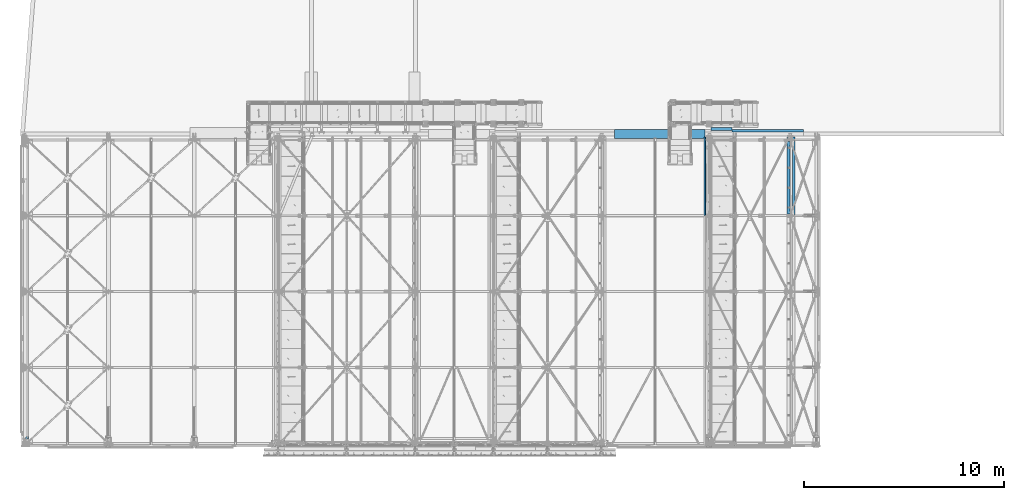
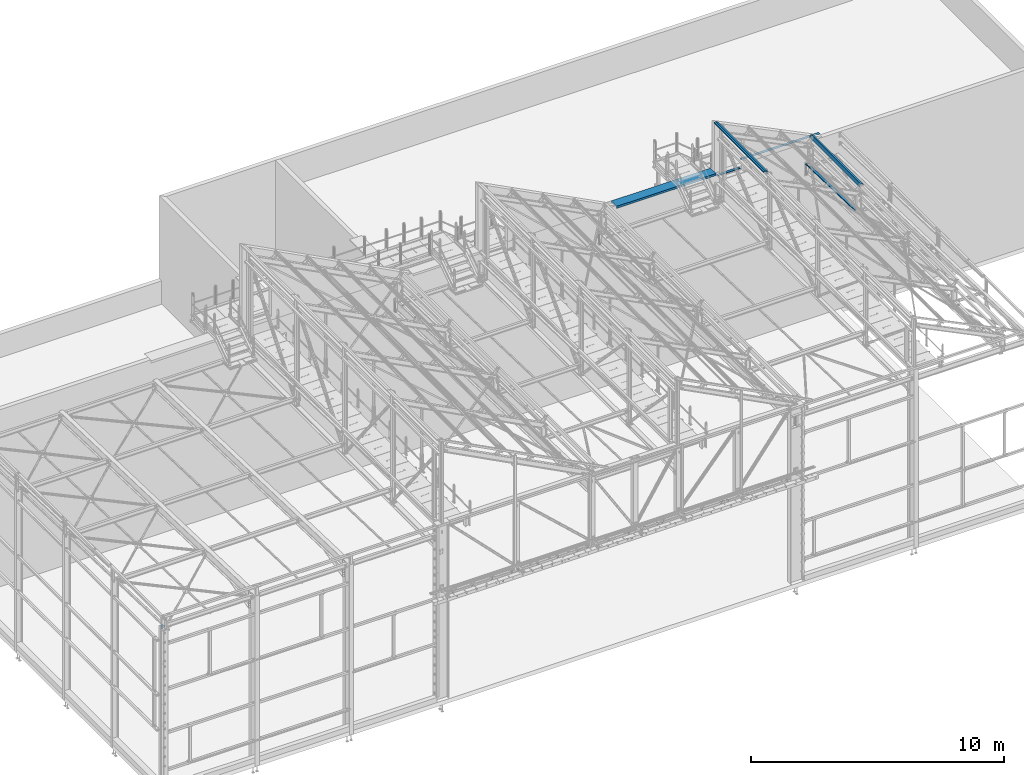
# One storey, part 351 of 362: 7 beams, 7 elements without a shape of their own.
"""IFC2X3 building model written with IfcOpenShell, lengths in millimetres."""

from ifc_helpers import new_model, si_unit, frame, origin_with_axes, place, context, subcontext, project, spatial, faceted_brep, material, type_object, element, aggregate, save


model = new_model("IFC2X3")

# Units and contexts
model_context = context("Model", 3, precision=1e-05, world=origin_with_axes())
body_context = subcontext(model_context, "Body", "Model", "MODEL_VIEW")
ifc_project = project(units=[si_unit("LENGTHUNIT", "METRE", prefix="MILLI"), si_unit("AREAUNIT", "SQUARE_METRE"), si_unit("VOLUMEUNIT", "CUBIC_METRE"), si_unit("MASSUNIT", "GRAM", prefix="KILO"), si_unit("TIMEUNIT", "SECOND"), si_unit("PLANEANGLEUNIT", "RADIAN"), si_unit("SOLIDANGLEUNIT", "STERADIAN"), si_unit("THERMODYNAMICTEMPERATUREUNIT", "DEGREE_CELSIUS"), si_unit("LUMINOUSINTENSITYUNIT", "LUMEN")], contexts=[model_context])

# Site, building, storey
site_placement = place(None, origin_with_axes())
site = spatial("IfcSite", under=ifc_project, at=site_placement, Name="Undefined", CompositionType="ELEMENT")
building_placement = place(site_placement, origin_with_axes())
building = spatial("IfcBuilding", under=site, at=building_placement, Name="Undefined", CompositionType="ELEMENT")
storey_placement = place(building_placement, origin_with_axes())
storey = spatial("IfcBuildingStorey", under=building, at=storey_placement, Name="Undefined", CompositionType="ELEMENT", Elevation=0.0)

# Assembly, beam
assembly_1_placement = place(storey_placement, origin_with_axes())
assembly_1 = element("IfcElementAssembly", 1, at=assembly_1_placement, inside=storey, AssemblyPlace="NOTDEFINED", PredefinedType="NOTDEFINED")
ifc_material = material(Name="Undefined/S235-E24")
beam_type_1 = type_object("IfcBeamType", Name="PL1*3585", PredefinedType="NOTDEFINED")
beam_1_placement = place(assembly_1_placement, frame((37204.0000000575, 15725.5518131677, 8490.00255378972), z_axis=(-1.0, 0.0, 0.0), x_axis=(0.0, -0.104503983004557, 0.994524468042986)))
beam_1 = element("IfcBeam", 2, at=beam_1_placement, type_object=beam_type_1, material=ifc_material, Name="COIFFE", ObjectType="PL1*3585", context=body_context, shape_type="Brep", body=[
    faceted_brep([(1.21872290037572e-10, -0.5, -1792.5), (1.21872290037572e-10, -0.5, 1792.5), (-1.24600774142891e-10, 0.5, 1792.5), (-1.24600774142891e-10, 0.5, -1792.5), (9.99994928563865, 0.500000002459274, 1792.5), (9.99994928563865, 0.500000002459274, -1792.5), (10.0523447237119, -0.499999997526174, -1792.5), (10.0523447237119, -0.499999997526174, 1792.5), (99.5071476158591, 9.90535807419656, 1792.5), (99.5071476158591, 9.90535807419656, -1792.5), (98.6389784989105, 8.80862575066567, -1792.5), (98.6389784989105, 8.80862575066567, 1792.5), (116.598834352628, -124.046522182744, 1792.5), (116.598834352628, -124.046522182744, -1792.5), (115.606876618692, -124.173091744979, 1792.5), (115.606876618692, -124.173091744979, -1792.5)], [[[0, 1, 2, 3]], [[3, 2, 4, 5]], [[1, 0, 6, 7]], [[5, 4, 8, 9]], [[7, 6, 10, 11]], [[9, 8, 12, 13]], [[8, 4, 2, 1, 7, 11, 14, 12]], [[11, 10, 15, 14]], [[10, 6, 0, 3, 5, 9, 13, 15]], [[14, 15, 13, 12]]]),
])
aggregate(assembly_1, [beam_1])

assembly_2_placement = place(storey_placement, origin_with_axes())
assembly_2 = element("IfcElementAssembly", 3, at=assembly_2_placement, inside=storey, AssemblyPlace="NOTDEFINED", PredefinedType="NOTDEFINED")
beam_type_2 = type_object("IfcBeamType", Name="PL1*4540", PredefinedType="NOTDEFINED")
beam_2_placement = place(assembly_2_placement, frame((31793.4300035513, 15725.551813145, 8490.0025537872), z_axis=(-1.0, 0.0, 0.0), x_axis=(0.0, -0.104503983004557, 0.994524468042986)))
beam_2 = element("IfcBeam", 4, at=beam_2_placement, type_object=beam_type_2, material=ifc_material, Name="COIFFE", ObjectType="PL1*4540", context=body_context, shape_type="Brep", body=[
    faceted_brep([(2.60934029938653e-09, -0.5, -2270.0), (2.60934029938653e-09, -0.5, 2270.0), (-2.6102497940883e-09, 0.5, 2270.0), (-2.6102497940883e-09, 0.5, -2270.0), (9.99994928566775, 0.500000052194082, 2270.0), (9.99994928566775, 0.500000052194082, -2270.0), (10.0523286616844, -0.49999994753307, -2270.0), (10.0523286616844, -0.49999994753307, 2270.0), (99.5074489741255, 9.90249021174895, 2270.0), (99.5074489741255, 9.90249021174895, -2270.0), (98.6392763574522, 8.80578902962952, -2270.0), (98.6392763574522, 8.80578902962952, 2270.0), (156.478023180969, -436.588628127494, 2270.0), (156.478023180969, -436.588628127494, -2270.0), (155.356650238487, -435.700941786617, -2270.0), (155.356650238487, -435.700941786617, 2270.0), (57.0288088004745, -447.037337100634, 2270.0), (57.0288088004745, -447.037337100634, -2270.0), (59.3252667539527, -445.790553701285, -2270.0), (59.3252667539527, -445.790553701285, 2270.0), (66.4689025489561, -435.380353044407, 2270.0), (66.4689025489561, -435.380353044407, -2270.0), (67.2460337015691, -436.009691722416, 2270.0), (67.2460337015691, -436.009691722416, -2270.0)], [[[0, 1, 2, 3]], [[3, 2, 4, 5]], [[1, 0, 6, 7]], [[5, 4, 8, 9]], [[7, 6, 10, 11]], [[9, 8, 12, 13]], [[11, 10, 14, 15]], [[13, 12, 16, 17]], [[15, 14, 18, 19]], [[17, 16, 20, 21]], [[16, 12, 8, 4, 2, 1, 7, 11, 15, 19, 22, 20]], [[19, 18, 23, 22]], [[18, 14, 10, 6, 0, 3, 5, 9, 13, 17, 21, 23]], [[22, 23, 21, 20]]]),
])
aggregate(assembly_2, [beam_2])

assembly_3_placement = place(storey_placement, origin_with_axes())
assembly_3 = element("IfcElementAssembly", 5, at=assembly_3_placement, inside=storey, AssemblyPlace="NOTDEFINED", PredefinedType="NOTDEFINED")
beam_type_3 = type_object("IfcBeamType", Name="PL1*1065", PredefinedType="NOTDEFINED")
beam_3_placement = place(assembly_3_placement, frame((34879.0000000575, 15804.7465046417, 8079.96015603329), z_axis=(-1.0, 0.0, 0.0), x_axis=(0.0, 0.707106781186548, -0.707106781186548)))
beam_3 = element("IfcBeam", 6, at=beam_3_placement, type_object=beam_type_3, material=ifc_material, Name="COIFFE", ObjectType="PL1*1065", context=body_context, shape_type="Brep", body=[
    faceted_brep([(-9.09494701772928e-13, -0.5, -532.5), (-9.09494701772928e-13, -0.5, 532.5), (0.0, 0.5, 532.5), (0.0, 0.5, -532.5), (14.9999999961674, 0.5, 532.5), (14.9999999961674, 0.5, -532.5), (12.5857864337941, -0.5, -532.5), (12.5857864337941, -0.5, 532.5), (-20.3553390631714, -34.855339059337, 532.5), (-20.3553390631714, -34.855339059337, -532.5), (-20.4043516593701, -33.4901380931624, -532.5), (-20.4043516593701, -33.4901380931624, 532.5), (-136.320853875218, 65.5538265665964, 532.5), (-136.320853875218, 65.5538265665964, -532.5), (-136.369866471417, 66.919027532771, -532.5), (-136.369866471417, 66.919027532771, 532.5), (-150.462992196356, 51.4116882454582, 532.5), (-150.462992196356, 51.4116882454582, -532.5), (-151.170098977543, 52.1187950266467, 532.5), (-151.170098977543, 52.1187950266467, -532.5)], [[[0, 1, 2, 3]], [[3, 2, 4, 5]], [[1, 0, 6, 7]], [[5, 4, 8, 9]], [[7, 6, 10, 11]], [[9, 8, 12, 13]], [[11, 10, 14, 15]], [[13, 12, 16, 17]], [[12, 8, 4, 2, 1, 7, 11, 15, 18, 16]], [[15, 14, 19, 18]], [[14, 10, 6, 0, 3, 5, 9, 13, 17, 19]], [[18, 19, 17, 16]]]),
])
aggregate(assembly_3, [beam_3])

assembly_4_placement = place(storey_placement, origin_with_axes())
assembly_4 = element("IfcElementAssembly", 7, at=assembly_4_placement, inside=storey, Name="POUTRE", AssemblyPlace="NOTDEFINED", PredefinedType="NOTDEFINED")
beam_type_4 = type_object("IfcBeamType", Name="PL2*4000", PredefinedType="NOTDEFINED")
beam_4_placement = place(assembly_4_placement, frame((38309.9999999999, 13351.0192249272, 7631.42783689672), z_axis=(3.14103090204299e-11, 0.999506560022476, -0.0314107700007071), x_axis=(-1.0, 0.0, 0.0)))
beam_4 = element("IfcBeam", 8, at=beam_4_placement, type_object=beam_type_4, material=ifc_material, Name="POUTRE", ObjectType="PL2*4000", context=body_context, shape_type="Brep", body=[
    faceted_brep([(2.3283064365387e-10, 1.00000000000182, 1764.61043258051), (2.3283064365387e-10, -0.999999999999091, 1764.6104325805), (84.999999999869, -1.00000000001, 1764.61043258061), (84.999999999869, 0.999999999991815, 1764.61043258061), (85.0000000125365, -1.00000000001, 1934.61043258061), (85.0000000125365, 0.999999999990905, 1934.61043258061), (2.5465851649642e-10, 1.00000000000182, 1934.61043258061), (2.5465851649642e-10, -0.999999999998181, 1934.61043258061), (138.000000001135, 0.99999999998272, 1999.99999999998), (138.000000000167, 39.0000003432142, 1999.99999999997), (137.999999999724, 39.0000003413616, -1947.26557824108), (137.999999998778, 0.999999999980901, -1947.26557824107), (140.000000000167, 39.0000003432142, 1999.99999999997), (140.000000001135, -1.00000000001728, 1999.99999999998), (139.999999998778, -1.00000000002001, -1947.26557824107), (139.999999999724, 39.0000003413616, -1947.26557824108), (-2.47382558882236e-10, 1.0, -1867.26557823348), (84.9999999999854, 0.999999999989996, -1867.26557823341), (84.9999999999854, -1.00000000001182, -1867.26557823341), (-2.47382558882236e-10, -1.00000000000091, -1867.26557823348), (85.0000000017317, 0.999999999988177, -1947.26557824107), (85.0000000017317, -1.00000000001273, -1947.26557824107), (2.61934474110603e-10, 1.00000000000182, 2000.0), (2.61934474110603e-10, -0.999999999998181, 2000.0)], [[[0, 1, 2, 3]], [[3, 2, 4, 5]], [[6, 5, 4, 7]], [[8, 9, 10, 11]], [[12, 13, 14, 15]], [[16, 17, 18, 19]], [[20, 21, 18, 17]], [[11, 10, 15, 14, 21, 20]], [[9, 12, 15, 10]], [[8, 22, 23, 13, 12, 9]], [[23, 22, 6, 7]], [[2, 1, 19, 18, 21, 14, 13, 23, 7, 4]], [[16, 19, 1, 0]], [[22, 8, 11, 20, 17, 16, 0, 3, 5, 6]]]),
])
aggregate(assembly_4, [beam_4])

assembly_5_placement = place(storey_placement, origin_with_axes())
assembly_5 = element("IfcElementAssembly", 9, at=assembly_5_placement, inside=storey, AssemblyPlace="NOTDEFINED", PredefinedType="NOTDEFINED")
beam_type_5 = type_object("IfcBeamType", Name="PL10*140", PredefinedType="NOTDEFINED")
beam_5_placement = place(assembly_5_placement, frame((100.0, 349.778798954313, 7753.86705475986), z_axis=(-1.0, 0.0, 0.0), x_axis=(0.0, -0.999506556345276, 0.031410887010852)))
beam_5 = element("IfcBeam", 10, at=beam_5_placement, type_object=beam_type_5, material=ifc_material, Name="ATTACHE", ObjectType="PL10*140", context=body_context, shape_type="Brep", body=[
    faceted_brep([(129.999999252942, 5.00000017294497, -70.0), (129.999999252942, 5.00000017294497, 70.0), (125.916599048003, -124.935855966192, 70.0), (125.916599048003, -124.935855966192, 9.99999999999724), (128.429460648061, -44.9753311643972, -70.0), (115.921533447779, -124.621748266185, 70.0), (115.921533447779, -124.621748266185, 9.99999999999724), (119.680799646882, -4.99999984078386, 70.0), (119.680799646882, -4.99999984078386, -70.0), (118.434395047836, -44.6612234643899, -70.0), (6.65164634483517e-09, -4.99999999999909, -70.0), (-6.6516747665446e-09, 5.00000000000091, -70.0), (-6.6516747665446e-09, 5.00000000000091, 10.0000000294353), (59.9999999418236, 5.0000000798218, 70.0), (59.9999999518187, -4.99999992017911, 70.0), (6.65164634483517e-09, -4.99999999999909, 10.0000000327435)], [[[0, 1, 2, 3, 4]], [[2, 5, 6, 3]], [[5, 7, 8, 9, 6]], [[3, 6, 9, 4]], [[8, 10, 11, 0, 4, 9]], [[1, 0, 11, 12, 13]], [[7, 5, 2, 1, 13, 14]], [[10, 8, 7, 14, 15]], [[11, 10, 15, 12]], [[14, 13, 12, 15]]]),
])
aggregate(assembly_5, [beam_5])

assembly_6_placement = place(storey_placement, origin_with_axes())
assembly_6 = element("IfcElementAssembly", 11, at=assembly_6_placement, inside=storey, Name="PANNE SHED", AssemblyPlace="NOTDEFINED", PredefinedType="NOTDEFINED")
beam_type_6 = type_object("IfcBeamType", Name="PL3*3950", PredefinedType="NOTDEFINED")
beam_6_placement = place(assembly_6_placement, frame((38418.1250345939, 13380.0003859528, 8769.23312698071), z_axis=(0.0, 1.0, 0.0), x_axis=(-0.897398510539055, -1.29999898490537e-08, 0.441220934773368)))
beam_6 = element("IfcBeam", 12, at=beam_6_placement, type_object=beam_type_6, material=ifc_material, Name="PANNE SHED", ObjectType="PL3*3950", context=body_context, shape_type="Brep", body=[
    faceted_brep([(-4.57112037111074e-09, -1.5, -1975.0), (-2.82489054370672e-09, -1.49999999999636, 1975.0), (4.56748239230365e-09, 1.50000000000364, 1975.0), (2.82125256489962e-09, 1.5, -1975.0), (46.9999982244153, 1.49999988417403, 1974.99999999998), (46.9999982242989, 1.49999988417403, -1975.00000000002), (49.9999982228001, -1.50000012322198, -1975.00000000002), (49.9999982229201, -1.50000012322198, 1974.99999999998), (46.999998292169, 135.499998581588, 1975.00000000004), (46.9999982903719, 135.499998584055, -1974.99999999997), (49.9999982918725, 138.499998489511, -1974.99999999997), (49.9999982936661, 138.499998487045, 1975.00000000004), (-88.132008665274, 135.500006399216, 1975.00000000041), (-88.1320086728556, 135.500006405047, -1974.99999999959), (-90.0000045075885, 138.50000290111, -1974.99999999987), (-90.0000045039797, 138.500002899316, 1975.00000000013), (-122.605485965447, 65.38445941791, 1975.00000000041), (-122.605485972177, 65.3844594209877, -1974.99999999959), (-125.297681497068, 66.7081222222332, 1975.00000000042), (-125.297681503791, 66.7081222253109, -1974.99999999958)], [[[0, 1, 2, 3]], [[3, 2, 4, 5]], [[1, 0, 6, 7]], [[5, 4, 8, 9]], [[7, 6, 10, 11]], [[9, 8, 12, 13]], [[11, 10, 14, 15]], [[13, 12, 16, 17]], [[12, 8, 4, 2, 1, 7, 11, 15, 18, 16]], [[15, 14, 19, 18]], [[14, 10, 6, 0, 3, 5, 9, 13, 17, 19]], [[18, 19, 17, 16]]]),
])
aggregate(assembly_6, [beam_6])

assembly_7_placement = place(storey_placement, origin_with_axes())
assembly_7 = element("IfcElementAssembly", 13, at=assembly_7_placement, inside=storey, Name="PANNE SHED", AssemblyPlace="NOTDEFINED", PredefinedType="NOTDEFINED")
beam_7_placement = place(assembly_7_placement, frame((34004.99999895, 13380.00031983, 11002.6130365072), z_axis=(0.0, 1.0, 0.0), x_axis=(0.0, 0.0, 1.0)))
beam_7 = element("IfcBeam", 14, at=beam_7_placement, type_object=beam_type_6, material=ifc_material, Name="PANNE SHED", ObjectType="PL3*3950", context=body_context, shape_type="Brep", body=[
    faceted_brep([(-4.57112037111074e-09, -1.5, -1975.0), (-2.82489054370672e-09, -1.49999999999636, 1975.0), (4.56748239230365e-09, 1.50000000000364, 1975.0), (2.82125256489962e-09, 1.5, -1975.0), (46.9999982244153, 1.49999988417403, 1974.99999999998), (46.9999982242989, 1.49999988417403, -1975.00000000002), (49.9999982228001, -1.50000012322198, -1975.00000000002), (49.9999982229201, -1.50000012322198, 1974.99999999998), (47.0, 82.166592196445, 1975.0), (47.0, 82.166592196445, -1975.0), (50.0, 82.8642120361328, -1975.0), (50.0, 82.8642120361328, 1975.0), (-13.6389276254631, 205.5, 1975.0), (-13.6389276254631, 205.5, -1975.0), (-11.7709312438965, 208.5, -1975.0), (-11.7709312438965, 208.5, 1975.0), (-148.770935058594, 205.5, 1975.0), (-148.770935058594, 205.5, -1975.0), (-151.770935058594, 208.5, -1975.0), (-151.770935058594, 208.5, 1975.0), (-148.770935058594, 158.5, 1975.0), (-148.770935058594, 158.5, -1975.0), (-151.770935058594, 158.5, 1975.0), (-151.770935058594, 158.5, -1975.0)], [[[0, 1, 2, 3]], [[3, 2, 4, 5]], [[1, 0, 6, 7]], [[5, 4, 8, 9]], [[7, 6, 10, 11]], [[9, 8, 12, 13]], [[11, 10, 14, 15]], [[13, 12, 16, 17]], [[15, 14, 18, 19]], [[17, 16, 20, 21]], [[16, 12, 8, 4, 2, 1, 7, 11, 15, 19, 22, 20]], [[19, 18, 23, 22]], [[18, 14, 10, 6, 0, 3, 5, 9, 13, 17, 21, 23]], [[22, 23, 21, 20]]]),
])
aggregate(assembly_7, [beam_7])

save(model, "model.ifc")
